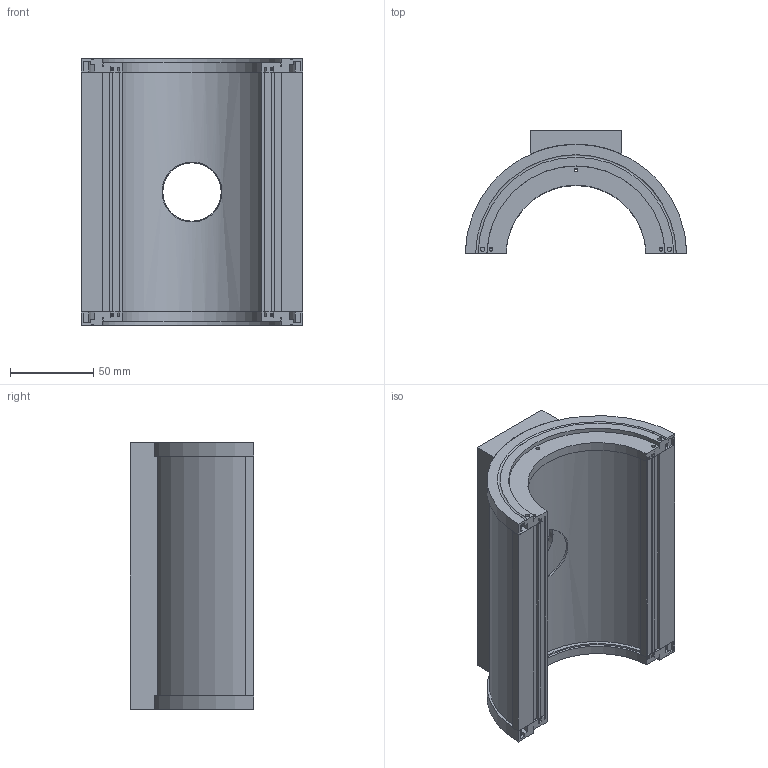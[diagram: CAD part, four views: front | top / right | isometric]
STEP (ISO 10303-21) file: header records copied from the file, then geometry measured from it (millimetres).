
FILE_DESCRIPTION( ( 'STEP AP214' ), ' ' );
FILE_NAME( 'C:/Users/khorstmann/Documents/Buechner_S30-635120-12-M84-1.stp', '2016-04-18T06:00:06', ( '' ), ( '' ), ' ', 'PARTsolutions', ' ' );
FILE_SCHEMA( ( 'AUTOMOTIVE_DESIGN { 1 0 10303 214 1 1 1 1 }' ) );
Length unit declared in the file: millimetre
Products named in the file (1): _Buechner S30-635120-12-M84-1
Bounding box: 133 x 74 x 160 mm (x, y, z)
Volume: 236612.4 mm3; surface area: 162718.6 mm2
Topology: 1 solids, 1 shells, 216 faces, 590 edges, 377 vertices
Faces by surface type: plane 134, cylinder 63, cone 17, torus 2
Full cylindrical faces by diameter (mm): 1.713 x6, 2.2 x6, 2.7 x4, 3.242 x4, 35 x1, 36 x1, 38.3 x1, 39.959 x1, 41 x1, 48 x1
Entity records: 8898 total; most frequent: CARTESIAN_POINT 1692, DIRECTION 1130, ORIENTED_EDGE 1090, EDGE_CURVE 545, AXIS2_PLACEMENT_3D 377, LINE 376, VECTOR 376, VERTEX_POINT 375
